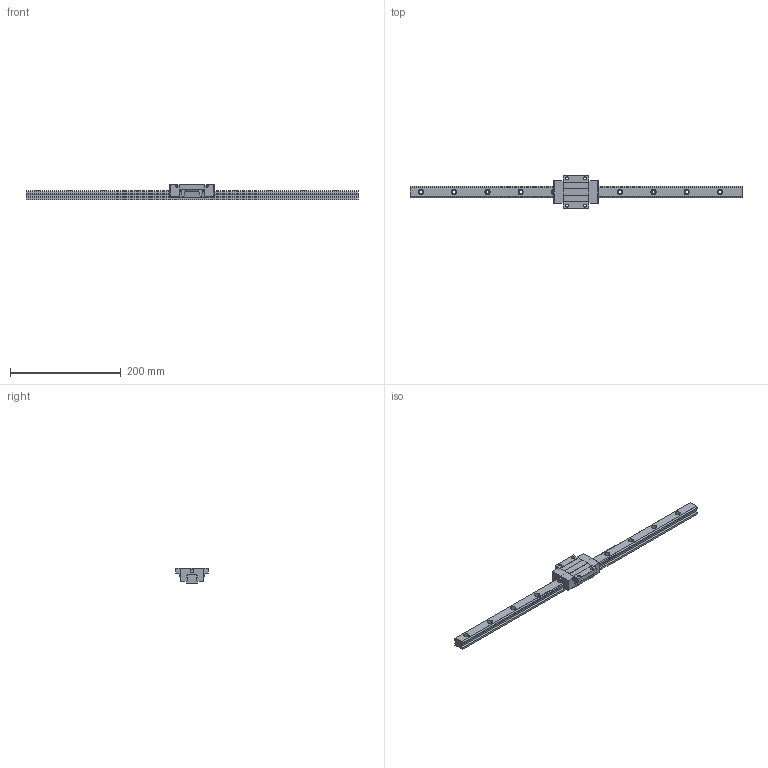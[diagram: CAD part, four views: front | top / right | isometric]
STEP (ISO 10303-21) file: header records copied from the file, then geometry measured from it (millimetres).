
FILE_DESCRIPTION (( 'STEP AP203' ), '1' );
FILE_NAME ('TRS20FN-WW.STEP', '2024-05-21T06:20:50', ( '' ), ( '' ), 'SwSTEP 2.0', 'SolidWorks 2022', '' );
FILE_SCHEMA (( 'CONFIG_CONTROL_DESIGN' ));
Length unit declared in the file: millimetre
Products named in the file (1): TRS20FN-WW
Bounding box: 600 x 59 x 28 mm (x, y, z)
Volume: 232706.9 mm3; surface area: 65934.7 mm2
Topology: 2 solids, 2 shells, 234 faces, 618 edges, 400 vertices
Faces by surface type: cylinder 124, plane 106, sphere 4
Entity records: 7577 total; most frequent: CARTESIAN_POINT 1513, DIRECTION 1284, ORIENTED_EDGE 1228, EDGE_CURVE 614, AXIS2_PLACEMENT_3D 459, VERTEX_POINT 400, VECTOR 366, LINE 366
